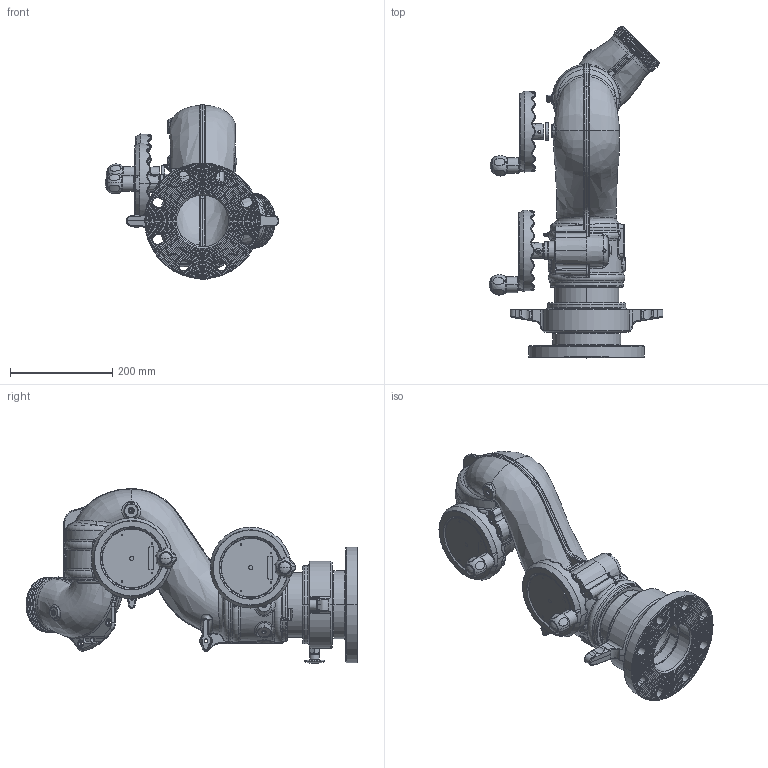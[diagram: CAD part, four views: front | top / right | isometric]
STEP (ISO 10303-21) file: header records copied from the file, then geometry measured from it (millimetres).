
FILE_DESCRIPTION (( 'STEP AP203' ), '1' );
FILE_NAME ('Y5-DR1A_45_Up.STEP', '2014-07-03T16:50:50', ( '' ), ( '' ), 'SwSTEP 2.0', 'SolidWorks 2014', '' );
FILE_SCHEMA (( 'CONFIG_CONTROL_DESIGN' ));
Products named in the file (1): Y5-DR1A_45_Up
Bounding box: 339.8 x 648.76 x 341.76 mm (x, y, z)
Surface area: 854660 mm2 (no closed solid volume)
Topology: 0 solids, 83 shells, 2496 faces, 7503 edges, 4871 vertices
Faces by surface type: bspline 676, torus 584, cylinder 462, plane 398, cone 320, sphere 56
Entity records: 183255 total; most frequent: CARTESIAN_POINT 123126, ORIENTED_EDGE 12715, DIRECTION 11472, EDGE_CURVE 7469, AXIS2_PLACEMENT_3D 4973, VERTEX_POINT 4864, CIRCLE 3152, B_SPLINE_CURVE_WITH_KNOTS 2664
